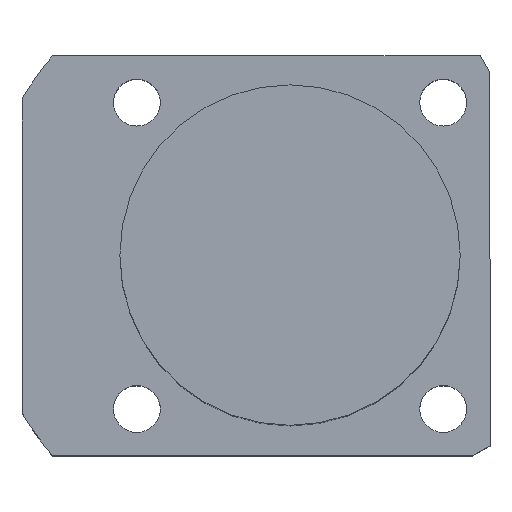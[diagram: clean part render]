
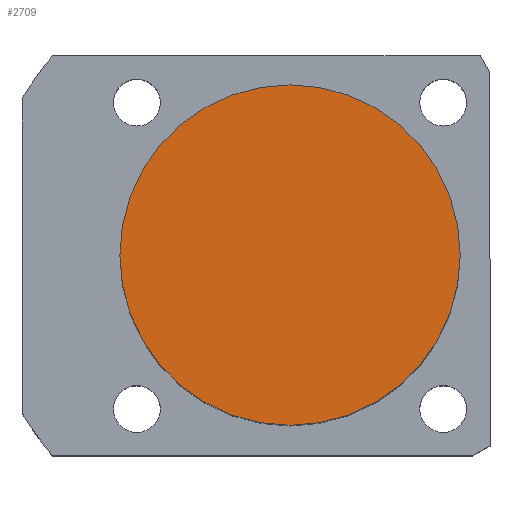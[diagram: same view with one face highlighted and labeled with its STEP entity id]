
A CAD part, top view. The second image highlights one B-rep face of the part: STEP entity #2709.
In plain terms, the highlighted planar face has unit normal (0, 0, 1).
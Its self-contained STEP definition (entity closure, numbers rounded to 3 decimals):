
#419 = DIRECTION ( 'NONE',  ( 0., 0., 1. ) ) ;
#477 = AXIS2_PLACEMENT_3D ( 'NONE', #2547, #419, #2910 ) ;
#1141 = DIRECTION ( 'NONE',  ( 0., 0., 1. ) ) ;
#1681 = EDGE_CURVE ( 'NONE', #2487, #1944, #3678, .T. ) ;
#1793 = AXIS2_PLACEMENT_3D ( 'NONE', #1879, #4373, #2246 ) ;
#1879 = CARTESIAN_POINT ( 'NONE',  ( 0., 0., 61.5 ) ) ;
#1944 = VERTEX_POINT ( 'NONE', #4491 ) ;
#2246 = DIRECTION ( 'NONE',  ( 1., 0., 0. ) ) ;
#2326 = AXIS2_PLACEMENT_3D ( 'NONE', #3271, #1141, #3647 ) ;
#2341 = FACE_OUTER_BOUND ( 'NONE', #3996, .T. ) ;
#2487 = VERTEX_POINT ( 'NONE', #4054 ) ;
#2547 = CARTESIAN_POINT ( 'NONE',  ( 0., 0., 61.5 ) ) ;
#2597 = ORIENTED_EDGE ( 'NONE', *, *, #4085, .T. ) ;
#2709 = ADVANCED_FACE ( 'NONE', ( #2341 ), #3316, .T. ) ;
#2910 = DIRECTION ( 'NONE',  ( 1., 0., 0. ) ) ;
#3271 = CARTESIAN_POINT ( 'NONE',  ( 0., 0., 61.5 ) ) ;
#3316 = PLANE ( 'NONE',  #1793 ) ;
#3647 = DIRECTION ( 'NONE',  ( 1., 0., 0. ) ) ;
#3678 = CIRCLE ( 'NONE', #2326, 20. ) ;
#3996 = EDGE_LOOP ( 'NONE', ( #2597, #4037 ) ) ;
#4037 = ORIENTED_EDGE ( 'NONE', *, *, #1681, .T. ) ;
#4054 = CARTESIAN_POINT ( 'NONE',  ( 20., 0., 61.5 ) ) ;
#4085 = EDGE_CURVE ( 'NONE', #1944, #2487, #4196, .T. ) ;
#4196 = CIRCLE ( 'NONE', #477, 20. ) ;
#4373 = DIRECTION ( 'NONE',  ( 0., 0., 1. ) ) ;
#4491 = CARTESIAN_POINT ( 'NONE',  ( -20., 0., 61.5 ) ) ;
